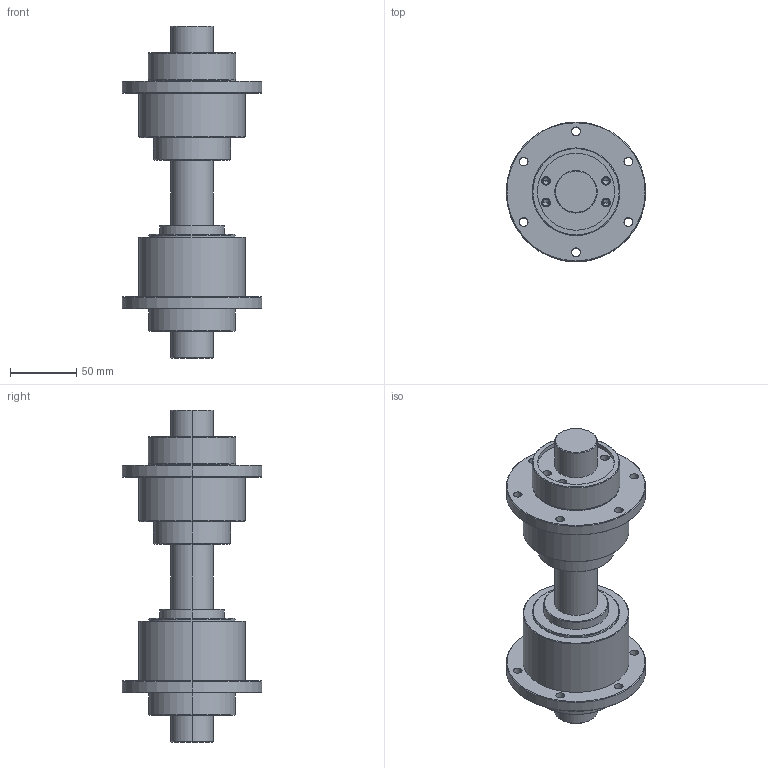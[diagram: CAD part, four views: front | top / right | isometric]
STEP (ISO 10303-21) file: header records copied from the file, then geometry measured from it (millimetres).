
FILE_DESCRIPTION (( 'STEP AP203' ), '1' );
FILE_NAME ('RBBY3232.STEP', '2014-11-13T08:55:24', ( '' ), ( '' ), 'SwSTEP 2.0', 'SolidWorks 2014', '' );
FILE_SCHEMA (( 'CONFIG_CONTROL_DESIGN' ));
Length unit declared in the file: millimetre
Products named in the file (4): SC32; RFBY3232; RLBF32; RBBY3232
Assembly tree (3 placements, depth 2):
  RBBY3232
    SC32
    RFBY3232
    RLBF32
Bounding box: 105 x 105 x 250 mm (x, y, z)
Volume: 801769.7 mm3; surface area: 129952.2 mm2
Topology: 5 solids, 5 shells, 185 faces, 438 edges, 266 vertices
Faces by surface type: cylinder 114, cone 48, plane 23
Entity records: 5738 total; most frequent: DIRECTION 1056, CARTESIAN_POINT 875, ORIENTED_EDGE 836, AXIS2_PLACEMENT_3D 447, EDGE_CURVE 418, VERTEX_POINT 266, CIRCLE 256, EDGE_LOOP 240
